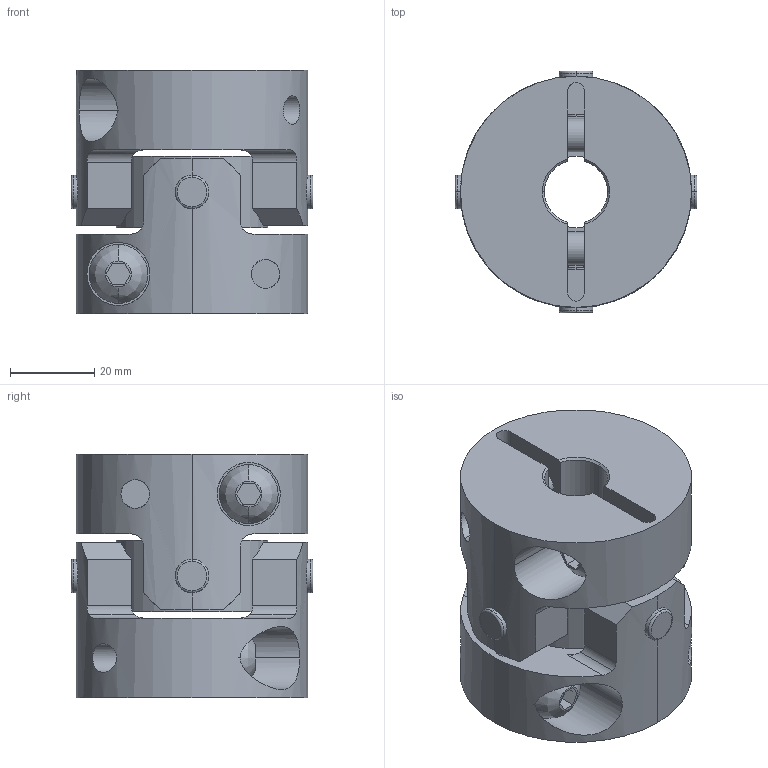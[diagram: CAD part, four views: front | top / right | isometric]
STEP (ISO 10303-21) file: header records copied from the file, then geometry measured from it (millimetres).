
FILE_DESCRIPTION((''),'2;1');
FILE_NAME('UA-55C-15×25.stp','2013-05-22T14:00:23',(''),(''),'AutoCAD STEP 2000i','AutoCAD 2000i',', , ');
FILE_SCHEMA(('CONFIG_CONTROL_DESIGN'));
Length unit declared in the file: millimetre
Products named in the file (7): UA-55C-10×18; 忣兜1; UA-5502-D18; BTN-M8; UA-5502-D10-1; UA-5502-D10; UA55-SEN
Assembly tree (8 placements, depth 3):
  UA-55C-10×18
    忣兜1
    UA-5502-D18
      BTN-M8
    UA-5502-D10-1
      BTN-M8
    UA-5502-D10
      BTN-M8
    UA55-SEN
Bounding box: 57.55 x 57.55 x 58 mm (x, y, z)
Volume: 94942.6 mm3; surface area: 30932.7 mm2
Topology: 1 solids, 1 shells, 206 faces, 554 edges, 364 vertices
Faces by surface type: cylinder 96, plane 78, cone 16, bspline 8, torus 8
Entity records: 8407 total; most frequent: CARTESIAN_POINT 3071, ORIENTED_EDGE 1108, DIRECTION 1068, EDGE_CURVE 554, AXIS2_PLACEMENT_3D 411, VERTEX_POINT 364, VECTOR 246, LINE 246
